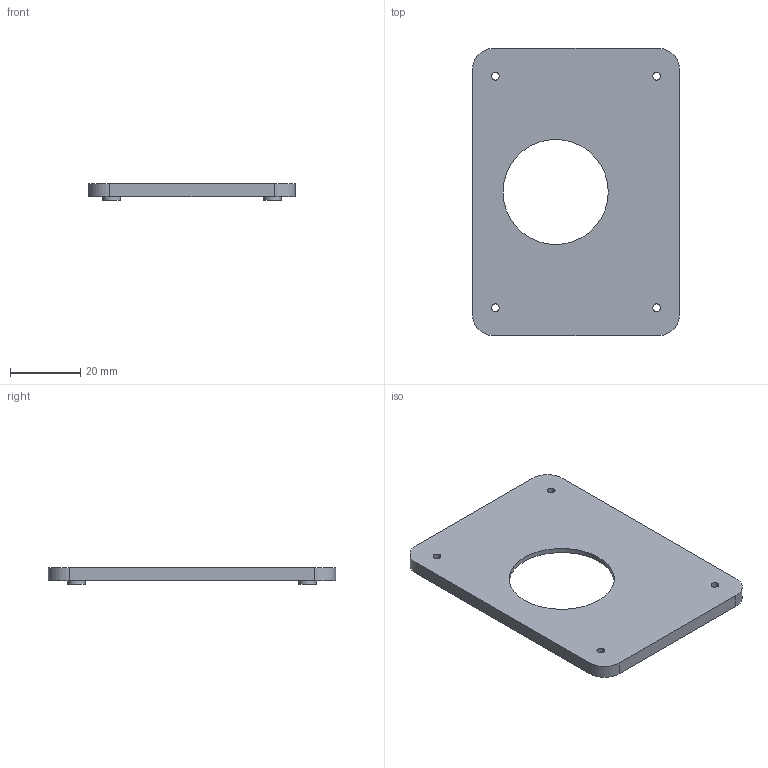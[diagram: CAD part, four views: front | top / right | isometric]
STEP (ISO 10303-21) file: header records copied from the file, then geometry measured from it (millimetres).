
FILE_DESCRIPTION(('FreeCAD Model'),'2;1');
FILE_NAME('Open CASCADE Shape Model','2026-10-19T21:34:23',('FreeCAD'),( 'FreeCAD'),'Open CASCADE STEP processor 7.8','FreeCAD','Unknown');
FILE_SCHEMA(('AUTOMOTIVE_DESIGN { 1 0 10303 214 1 1 1 1 }'));
Length unit declared in the file: millimetre
Products named in the file (1): Open CASCADE STEP translator 7.8 24
Bounding box: 59 x 82 x 4.78 mm (x, y, z)
Volume: 6641.3 mm3; surface area: 10314.5 mm2
Topology: 1 solids, 1 shells, 32 faces, 75 edges, 50 vertices
Faces by surface type: cylinder 17, plane 15
Full cylindrical faces by diameter (mm): 2.2 x4, 5 x4, 30 x1
Entity records: 963 total; most frequent: DIRECTION 175, CARTESIAN_POINT 158, ORIENTED_EDGE 150, EDGE_CURVE 75, AXIS2_PLACEMENT_3D 67, VERTEX_POINT 50, FACE_BOUND 47, EDGE_LOOP 47
